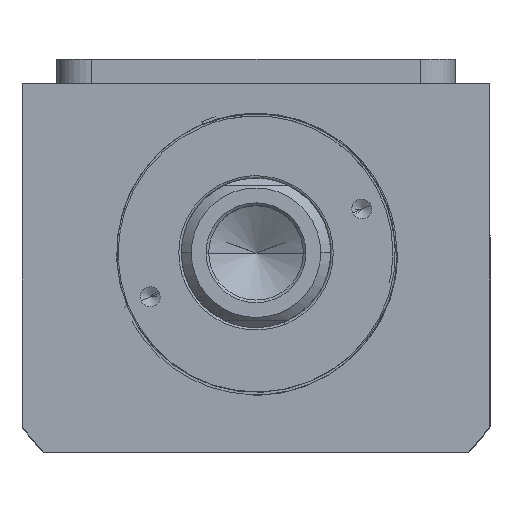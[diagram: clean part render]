
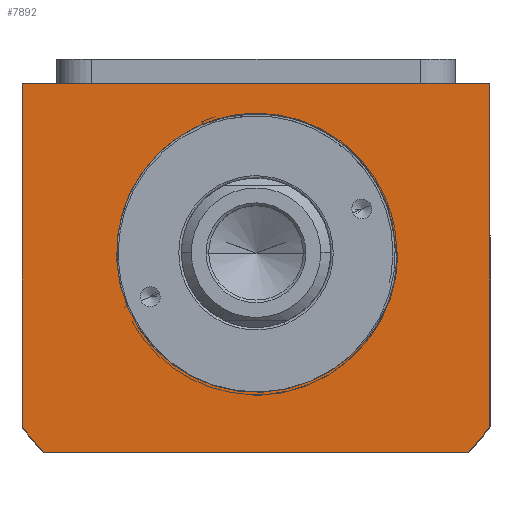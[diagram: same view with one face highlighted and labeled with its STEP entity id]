
A CAD part, top view. The second image highlights one B-rep face of the part: STEP entity #7892.
In plain terms, the highlighted planar face has unit normal (0, 0, 1).
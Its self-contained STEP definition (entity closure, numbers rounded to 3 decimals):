
#282 = AXIS2_PLACEMENT_3D ( 'NONE', #8721, #8831, #2523 ) ;
#490 = CARTESIAN_POINT ( 'NONE',  ( 0., 0., 52.5 ) ) ;
#514 = CARTESIAN_POINT ( 'NONE',  ( 28., 0., 52.5 ) ) ;
#613 = CARTESIAN_POINT ( 'NONE',  ( 19.714, -20.129, 52.5 ) ) ;
#723 = CARTESIAN_POINT ( 'NONE',  ( 18.667, -21.077, 52.5 ) ) ;
#755 = EDGE_CURVE ( 'NONE', #8215, #4847, #9780, .T. ) ;
#818 = EDGE_CURVE ( 'NONE', #9877, #7969, #8363, .T. ) ;
#1026 = EDGE_CURVE ( 'NONE', #9104, #9877, #5681, .T. ) ;
#1164 = CARTESIAN_POINT ( 'NONE',  ( 28.495, 0., 52.5 ) ) ;
#1183 = DIRECTION ( 'NONE',  ( 1., 0., 0. ) ) ;
#1222 = EDGE_CURVE ( 'NONE', #2402, #3161, #6816, .T. ) ;
#1259 = LINE ( 'NONE', #7051, #11375 ) ;
#1413 = ORIENTED_EDGE ( 'NONE', *, *, #1222, .F. ) ;
#1493 = ORIENTED_EDGE ( 'NONE', *, *, #10571, .T. ) ;
#1592 = FACE_BOUND ( 'NONE', #3874, .T. ) ;
#1601 = DIRECTION ( 'NONE',  ( 0., 0., 1. ) ) ;
#1806 = ORIENTED_EDGE ( 'NONE', *, *, #1026, .T. ) ;
#2021 = CARTESIAN_POINT ( 'NONE',  ( 47., 34., 52.5 ) ) ;
#2065 = CIRCLE ( 'NONE', #282, 28. ) ;
#2259 = DIRECTION ( 'NONE',  ( 0., 0., 1. ) ) ;
#2402 = VERTEX_POINT ( 'NONE', #9296 ) ;
#2412 = CARTESIAN_POINT ( 'NONE',  ( -47., -34.832, 52.5 ) ) ;
#2453 = CARTESIAN_POINT ( 'NONE',  ( 28.449, -1.419, 52.5 ) ) ;
#2504 = DIRECTION ( 'NONE',  ( 1., 0., 0. ) ) ;
#2523 = DIRECTION ( 'NONE',  ( 1., 0., 0. ) ) ;
#2567 = CARTESIAN_POINT ( 'NONE',  ( 24.898, -13.504, 52.5 ) ) ;
#2739 = ORIENTED_EDGE ( 'NONE', *, *, #3356, .T. ) ;
#2901 = DIRECTION ( 'NONE',  ( 0., 0., 1. ) ) ;
#2915 = CARTESIAN_POINT ( 'NONE',  ( 42.688, -40., 52.5 ) ) ;
#3060 = DIRECTION ( 'NONE',  ( 0., -1., 0. ) ) ;
#3161 = VERTEX_POINT ( 'NONE', #514 ) ;
#3306 = CARTESIAN_POINT ( 'NONE',  ( 0., 0., 52.5 ) ) ;
#3314 = CARTESIAN_POINT ( 'NONE',  ( 13.459, -24.624, 52.5 ) ) ;
#3332 = CARTESIAN_POINT ( 'NONE',  ( 0., 0., 52.5 ) ) ;
#3352 = CARTESIAN_POINT ( 'NONE',  ( 28.233, -3.538, 52.5 ) ) ;
#3356 = EDGE_CURVE ( 'NONE', #9894, #8215, #1259, .T. ) ;
#3425 = CARTESIAN_POINT ( 'NONE',  ( 21.684, -18.094, 52.5 ) ) ;
#3575 = VERTEX_POINT ( 'NONE', #8066 ) ;
#3752 = B_SPLINE_CURVE_WITH_KNOTS ( 'NONE', 3,
 ( #1164, #4220, #2453, #10595, #3352, #5957, #7823, #11365, #6876, #2567, #4293, #5154, #3425, #6952, #613, #723, #6914, #11409, #6989, #3314, #5074, #9592, #7782, #4333 ),
 .UNSPECIFIED., .F., .F.,
 ( 4, 2, 2, 2, 2, 2, 2, 2, 2, 2, 2, 4 ),
 ( 0., 0.002, 0.004, 0.009, 0.013, 0.017, 0.021, 0.023, 0.026, 0.03, 0.032, 0.034 ),
 .UNSPECIFIED. ) ;
#3874 = EDGE_LOOP ( 'NONE', ( #1413, #4625, #1493 ) ) ;
#3998 = CARTESIAN_POINT ( 'NONE',  ( 42.688, -40., 52.5 ) ) ;
#4220 = CARTESIAN_POINT ( 'NONE',  ( 28.485, -0.71, 52.5 ) ) ;
#4293 = CARTESIAN_POINT ( 'NONE',  ( 24.178, -14.712, 52.5 ) ) ;
#4333 = CARTESIAN_POINT ( 'NONE',  ( 10.232, -26.064, 52.5 ) ) ;
#4625 = ORIENTED_EDGE ( 'NONE', *, *, #9905, .T. ) ;
#4732 = VECTOR ( 'NONE', #10475, 1000. ) ;
#4830 = CARTESIAN_POINT ( 'NONE',  ( 0., 0., 52.5 ) ) ;
#4847 = VERTEX_POINT ( 'NONE', #2412 ) ;
#5074 = CARTESIAN_POINT ( 'NONE',  ( 12.831, -24.945, 52.5 ) ) ;
#5154 = CARTESIAN_POINT ( 'NONE',  ( 22.571, -17.007, 52.5 ) ) ;
#5412 = VECTOR ( 'NONE', #3060, 1000. ) ;
#5440 = AXIS2_PLACEMENT_3D ( 'NONE', #3332, #1601, #2504 ) ;
#5507 = AXIS2_PLACEMENT_3D ( 'NONE', #490, #2259, #8526 ) ;
#5619 = AXIS2_PLACEMENT_3D ( 'NONE', #4830, #2901, #1183 ) ;
#5681 = LINE ( 'NONE', #3998, #11614 ) ;
#5821 = DIRECTION ( 'NONE',  ( 0., 1., 0. ) ) ;
#5901 = EDGE_CURVE ( 'NONE', #7969, #9894, #10798, .T. ) ;
#5957 = CARTESIAN_POINT ( 'NONE',  ( 27.887, -5.628, 52.5 ) ) ;
#5980 = DIRECTION ( 'NONE',  ( -1., 0., 0. ) ) ;
#6012 = CARTESIAN_POINT ( 'NONE',  ( -42.688, -40., 52.5 ) ) ;
#6650 = DIRECTION ( 'NONE',  ( 1., 0., 0. ) ) ;
#6742 = CARTESIAN_POINT ( 'NONE',  ( 47., 34., 52.5 ) ) ;
#6816 = LINE ( 'NONE', #3306, #4732 ) ;
#6876 = CARTESIAN_POINT ( 'NONE',  ( 26.163, -10.961, 52.5 ) ) ;
#6914 = CARTESIAN_POINT ( 'NONE',  ( 18.129, -21.529, 52.5 ) ) ;
#6952 = CARTESIAN_POINT ( 'NONE',  ( 20.224, -19.631, 52.5 ) ) ;
#6989 = CARTESIAN_POINT ( 'NONE',  ( 15.3, -23.593, 52.5 ) ) ;
#7051 = CARTESIAN_POINT ( 'NONE',  ( -47., 34., 52.5 ) ) ;
#7625 = PLANE ( 'NONE',  #5507 ) ;
#7782 = CARTESIAN_POINT ( 'NONE',  ( 10.89, -25.816, 52.5 ) ) ;
#7823 = CARTESIAN_POINT ( 'NONE',  ( 27.555, -6.99, 52.5 ) ) ;
#7892 = ADVANCED_FACE ( 'NONE', ( #1592, #7898 ), #7625, .T. ) ;
#7898 = FACE_OUTER_BOUND ( 'NONE', #9691, .T. ) ;
#7969 = VERTEX_POINT ( 'NONE', #7972 ) ;
#7972 = CARTESIAN_POINT ( 'NONE',  ( 47., -34.832, 52.5 ) ) ;
#8066 = CARTESIAN_POINT ( 'NONE',  ( 10.232, -26.064, 52.5 ) ) ;
#8215 = VERTEX_POINT ( 'NONE', #10085 ) ;
#8266 = VECTOR ( 'NONE', #5821, 1000. ) ;
#8276 = CARTESIAN_POINT ( 'NONE',  ( -47., -34.832, 52.5 ) ) ;
#8363 = CIRCLE ( 'NONE', #5619, 58.5 ) ;
#8526 = DIRECTION ( 'NONE',  ( 1., 0., 0. ) ) ;
#8721 = CARTESIAN_POINT ( 'NONE',  ( 0., 0., 52.5 ) ) ;
#8811 = ORIENTED_EDGE ( 'NONE', *, *, #755, .T. ) ;
#8831 = DIRECTION ( 'NONE',  ( 0., 0., -1. ) ) ;
#9104 = VERTEX_POINT ( 'NONE', #6012 ) ;
#9148 = EDGE_CURVE ( 'NONE', #4847, #9104, #10403, .T. ) ;
#9296 = CARTESIAN_POINT ( 'NONE',  ( 28.495, 0., 52.5 ) ) ;
#9592 = CARTESIAN_POINT ( 'NONE',  ( 11.542, -25.544, 52.5 ) ) ;
#9691 = EDGE_LOOP ( 'NONE', ( #2739, #8811, #10684, #1806, #11328, #10182 ) ) ;
#9780 = LINE ( 'NONE', #8276, #5412 ) ;
#9877 = VERTEX_POINT ( 'NONE', #2915 ) ;
#9894 = VERTEX_POINT ( 'NONE', #2021 ) ;
#9905 = EDGE_CURVE ( 'NONE', #2402, #3575, #3752, .T. ) ;
#10085 = CARTESIAN_POINT ( 'NONE',  ( -47., 34., 52.5 ) ) ;
#10182 = ORIENTED_EDGE ( 'NONE', *, *, #5901, .T. ) ;
#10403 = CIRCLE ( 'NONE', #5440, 58.5 ) ;
#10475 = DIRECTION ( 'NONE',  ( -1., 0., 0. ) ) ;
#10571 = EDGE_CURVE ( 'NONE', #3575, #3161, #2065, .T. ) ;
#10595 = CARTESIAN_POINT ( 'NONE',  ( 28.323, -2.832, 52.5 ) ) ;
#10684 = ORIENTED_EDGE ( 'NONE', *, *, #9148, .T. ) ;
#10798 = LINE ( 'NONE', #6742, #8266 ) ;
#11328 = ORIENTED_EDGE ( 'NONE', *, *, #818, .T. ) ;
#11365 = CARTESIAN_POINT ( 'NONE',  ( 26.694, -9.657, 52.5 ) ) ;
#11375 = VECTOR ( 'NONE', #5980, 1000. ) ;
#11409 = CARTESIAN_POINT ( 'NONE',  ( 16.467, -22.819, 52.5 ) ) ;
#11614 = VECTOR ( 'NONE', #6650, 1000. ) ;
